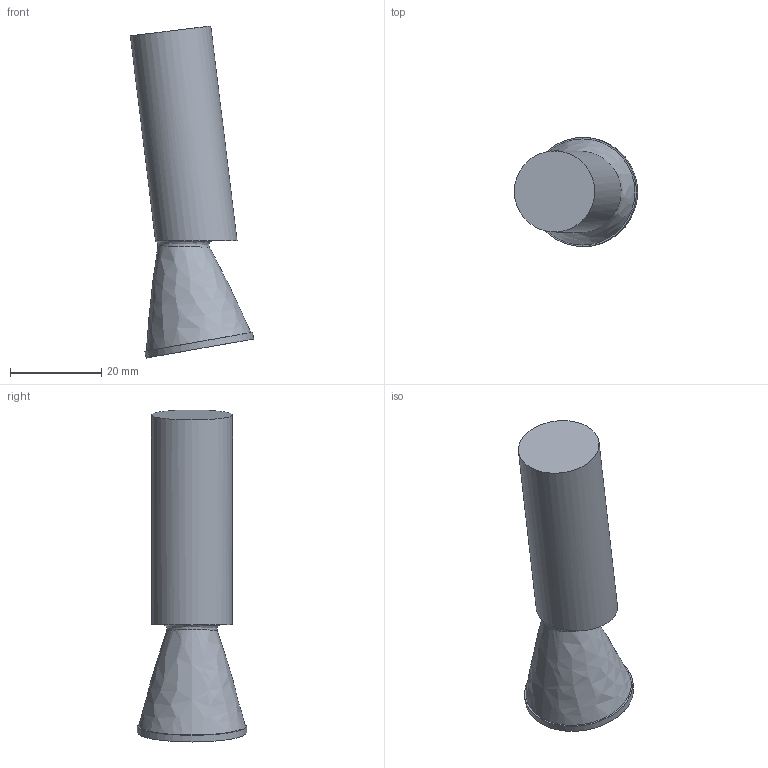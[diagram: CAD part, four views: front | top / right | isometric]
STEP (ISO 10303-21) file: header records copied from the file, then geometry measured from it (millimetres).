
FILE_DESCRIPTION(/* description */ (''),/* implementation_level */ '2;1');
FILE_NAME(/* name */ 'Booster-Dse-Attrappe.stp',/* time_stamp */ '2026-03-30T19:03:59+02:00',/* author */ ('rs22sud'),/* organization */ (''),/* preprocessor_version */ 'ST-DEVELOPER v20.1',/* originating_system */ 'Autodesk Inventor 2026',/* authorisation */ '');
FILE_SCHEMA (('AUTOMOTIVE_DESIGN { 1 0 10303 214 3 1 1 }'));
Length unit declared in the file: millimetre
Products named in the file (1): Delta_2_60mm
Bounding box: 27.09 x 24 x 72.9 mm (x, y, z)
Volume: 12940.3 mm3; surface area: 5787.7 mm2
Topology: 1 solids, 1 shells, 11 faces, 21 edges, 14 vertices
Faces by surface type: plane 5, bspline 3, cylinder 3
Full cylindrical faces by diameter (mm): 17.8 x1, 21.6 x1, 24 x1
Entity records: 584 total; most frequent: CARTESIAN_POINT 293, DIRECTION 43, ORIENTED_EDGE 40, EDGE_CURVE 20, AXIS2_PLACEMENT_3D 20, EDGE_LOOP 14, VERTEX_POINT 14, FACE_OUTER_BOUND 11
